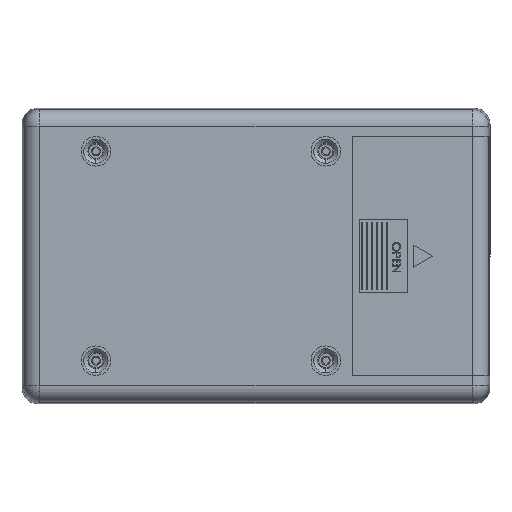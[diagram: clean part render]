
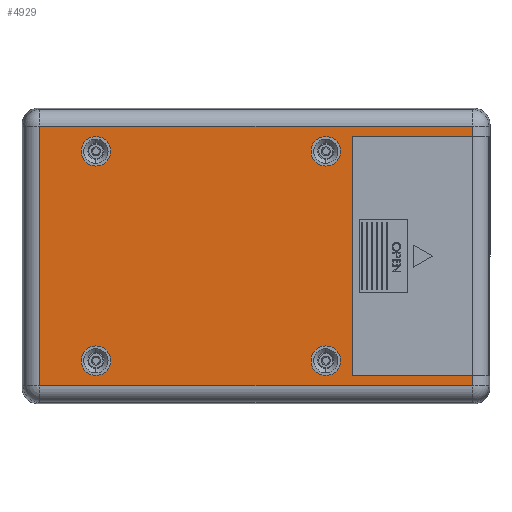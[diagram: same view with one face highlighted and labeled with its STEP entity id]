
A CAD part, front view. The second image highlights one B-rep face of the part: STEP entity #4929.
In plain terms, the highlighted planar face has unit normal (0, -1, 0).
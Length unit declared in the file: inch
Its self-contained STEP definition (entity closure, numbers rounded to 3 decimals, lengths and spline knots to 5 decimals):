
#378 = CIRCLE ( 'NONE', #8807, 0.14173 ) ;
#408 = LINE ( 'NONE', #9520, #24000 ) ;
#414 = EDGE_CURVE ( 'NONE', #7673, #7652, #408, .T. ) ;
#495 = CIRCLE ( 'NONE', #4356, 0.14173 ) ;
#554 = CARTESIAN_POINT ( 'NONE',  ( -1.53543, -0.66142, 1.00394 ) ) ;
#888 = ORIENTED_EDGE ( 'NONE', *, *, #3149, .F. ) ;
#950 = CARTESIAN_POINT ( 'NONE',  ( -1.53543, -0.66142, -1.00394 ) ) ;
#1122 = ORIENTED_EDGE ( 'NONE', *, *, #7910, .F. ) ;
#1480 = CARTESIAN_POINT ( 'NONE',  ( 2.07336, -0.66142, -1.14764 ) ) ;
#1517 = CARTESIAN_POINT ( 'NONE',  ( 0.66929, -0.66142, -1.14567 ) ) ;
#1717 = VERTEX_POINT ( 'NONE', #17631 ) ;
#1873 = VECTOR ( 'NONE', #13309, 39.37008 ) ;
#1882 = CARTESIAN_POINT ( 'NONE',  ( 2.07336, -0.66142, 1.4 ) ) ;
#1959 = DIRECTION ( 'NONE',  ( 0., 0., 1. ) ) ;
#2112 = DIRECTION ( 'NONE',  ( 0., -1., 0. ) ) ;
#2486 = DIRECTION ( 'NONE',  ( 0., 0., -1. ) ) ;
#2520 = CARTESIAN_POINT ( 'NONE',  ( -2.22677, -0.66142, 1.24659 ) ) ;
#2624 = ORIENTED_EDGE ( 'NONE', *, *, #23263, .T. ) ;
#2738 = CARTESIAN_POINT ( 'NONE',  ( -1.53543, -0.66142, 1.14567 ) ) ;
#2878 = DIRECTION ( 'NONE',  ( 0., 0., -1. ) ) ;
#3149 = EDGE_CURVE ( 'NONE', #5513, #23173, #24731, .T. ) ;
#3456 = ORIENTED_EDGE ( 'NONE', *, *, #13502, .T. ) ;
#3607 = EDGE_LOOP ( 'NONE', ( #1122, #5102 ) ) ;
#3843 = VECTOR ( 'NONE', #4088, 39.37008 ) ;
#3975 = LINE ( 'NONE', #5264, #22454 ) ;
#4035 = ORIENTED_EDGE ( 'NONE', *, *, #22352, .F. ) ;
#4053 = ORIENTED_EDGE ( 'NONE', *, *, #4452, .F. ) ;
#4088 = DIRECTION ( 'NONE',  ( 0., 0., -1. ) ) ;
#4098 = FACE_OUTER_BOUND ( 'NONE', #20796, .T. ) ;
#4139 = CARTESIAN_POINT ( 'NONE',  ( -1.53543, -0.66142, -1.14567 ) ) ;
#4351 = AXIS2_PLACEMENT_3D ( 'NONE', #21614, #10155, #23535 ) ;
#4356 = AXIS2_PLACEMENT_3D ( 'NONE', #20369, #8920, #22275 ) ;
#4452 = EDGE_CURVE ( 'NONE', #16727, #7652, #21700, .T. ) ;
#4469 = CARTESIAN_POINT ( 'NONE',  ( 0., -0.66142, 0. ) ) ;
#4510 = CARTESIAN_POINT ( 'NONE',  ( 2.07336, -0.66142, 1.24659 ) ) ;
#4929 = ADVANCED_FACE ( 'NONE', ( #19302, #9132, #19902, #24417, #4098 ), #17771, .F. ) ;
#5058 = CARTESIAN_POINT ( 'NONE',  ( -1.53543, -0.66142, -0.8622 ) ) ;
#5102 = ORIENTED_EDGE ( 'NONE', *, *, #19952, .F. ) ;
#5187 = EDGE_CURVE ( 'NONE', #17178, #10267, #495, .T. ) ;
#5264 = CARTESIAN_POINT ( 'NONE',  ( 2.22677, -0.66142, -1.24659 ) ) ;
#5298 = ORIENTED_EDGE ( 'NONE', *, *, #20056, .F. ) ;
#5456 = EDGE_CURVE ( 'NONE', #22919, #1717, #9108, .T. ) ;
#5513 = VERTEX_POINT ( 'NONE', #14106 ) ;
#5516 = DIRECTION ( 'NONE',  ( -1., 0., 0. ) ) ;
#5580 = CIRCLE ( 'NONE', #12428, 0.14173 ) ;
#5598 = DIRECTION ( 'NONE',  ( 1., 0., 0. ) ) ;
#5971 = AXIS2_PLACEMENT_3D ( 'NONE', #6021, #19364, #7918 ) ;
#6021 = CARTESIAN_POINT ( 'NONE',  ( 0.66929, -0.66142, -1.00394 ) ) ;
#6346 = DIRECTION ( 'NONE',  ( 0., 1., 0. ) ) ;
#6434 = VERTEX_POINT ( 'NONE', #2738 ) ;
#6895 = VERTEX_POINT ( 'NONE', #4139 ) ;
#7046 = VECTOR ( 'NONE', #5598, 39.37008 ) ;
#7652 = VERTEX_POINT ( 'NONE', #1480 ) ;
#7673 = VERTEX_POINT ( 'NONE', #18741 ) ;
#7910 = EDGE_CURVE ( 'NONE', #16118, #6434, #20343, .T. ) ;
#7918 = DIRECTION ( 'NONE',  ( 0., 0., -1. ) ) ;
#8210 = CARTESIAN_POINT ( 'NONE',  ( 0.66929, -0.66142, 1.14567 ) ) ;
#8506 = VECTOR ( 'NONE', #12005, 39.37008 ) ;
#8778 = DIRECTION ( 'NONE',  ( 0., -1., 0. ) ) ;
#8807 = AXIS2_PLACEMENT_3D ( 'NONE', #20225, #8778, #22135 ) ;
#8863 = ORIENTED_EDGE ( 'NONE', *, *, #5187, .F. ) ;
#8920 = DIRECTION ( 'NONE',  ( 0., -1., 0. ) ) ;
#9108 = LINE ( 'NONE', #2520, #8506 ) ;
#9132 = FACE_BOUND ( 'NONE', #3607, .T. ) ;
#9138 = CARTESIAN_POINT ( 'NONE',  ( -1.53543, -0.66142, 0.8622 ) ) ;
#9179 = DIRECTION ( 'NONE',  ( 0., 0., -1. ) ) ;
#9379 = AXIS2_PLACEMENT_3D ( 'NONE', #13535, #2112, #15439 ) ;
#9447 = EDGE_CURVE ( 'NONE', #1717, #10590, #22944, .T. ) ;
#9455 = VERTEX_POINT ( 'NONE', #17393 ) ;
#9520 = CARTESIAN_POINT ( 'NONE',  ( 2.07336, -0.66142, 1.4 ) ) ;
#10155 = DIRECTION ( 'NONE',  ( 0., -1., 0. ) ) ;
#10267 = VERTEX_POINT ( 'NONE', #8210 ) ;
#10311 = CIRCLE ( 'NONE', #9379, 0.14173 ) ;
#10482 = CARTESIAN_POINT ( 'NONE',  ( 0.66929, -0.66142, 0.8622 ) ) ;
#10590 = VERTEX_POINT ( 'NONE', #11863 ) ;
#10832 = CARTESIAN_POINT ( 'NONE',  ( -1.53543, -0.66142, 1.00394 ) ) ;
#10977 = DIRECTION ( 'NONE',  ( 1., 0., 0. ) ) ;
#11863 = CARTESIAN_POINT ( 'NONE',  ( -2.07336, -0.66142, -1.24659 ) ) ;
#12005 = DIRECTION ( 'NONE',  ( -1., 0., 0. ) ) ;
#12084 = ORIENTED_EDGE ( 'NONE', *, *, #414, .T. ) ;
#12428 = AXIS2_PLACEMENT_3D ( 'NONE', #10832, #24248, #12773 ) ;
#12624 = ORIENTED_EDGE ( 'NONE', *, *, #19848, .F. ) ;
#12773 = DIRECTION ( 'NONE',  ( 0., 0., -1. ) ) ;
#13064 = CARTESIAN_POINT ( 'NONE',  ( 0.9252, -0.66142, 1.14764 ) ) ;
#13158 = VERTEX_POINT ( 'NONE', #5058 ) ;
#13309 = DIRECTION ( 'NONE',  ( 0., 0., 1. ) ) ;
#13330 = LINE ( 'NONE', #22533, #22877 ) ;
#13369 = VECTOR ( 'NONE', #5516, 39.37008 ) ;
#13502 = EDGE_CURVE ( 'NONE', #10590, #7673, #3975, .T. ) ;
#13535 = CARTESIAN_POINT ( 'NONE',  ( 0.66929, -0.66142, 1.00394 ) ) ;
#13791 = AXIS2_PLACEMENT_3D ( 'NONE', #4469, #6346, #19710 ) ;
#13917 = DIRECTION ( 'NONE',  ( 0., -1., 0. ) ) ;
#14106 = CARTESIAN_POINT ( 'NONE',  ( 2.07336, -0.66142, 1.14764 ) ) ;
#14138 = EDGE_LOOP ( 'NONE', ( #18356, #19638 ) ) ;
#14306 = DIRECTION ( 'NONE',  ( 0., -1., 0. ) ) ;
#14446 = EDGE_LOOP ( 'NONE', ( #8863, #17343 ) ) ;
#15018 = CARTESIAN_POINT ( 'NONE',  ( 0.9252, -0.66142, 1.14764 ) ) ;
#15439 = DIRECTION ( 'NONE',  ( 0., 0., -1. ) ) ;
#15499 = CARTESIAN_POINT ( 'NONE',  ( -2.07336, -0.66142, -1.4 ) ) ;
#15542 = EDGE_LOOP ( 'NONE', ( #4035, #12624 ) ) ;
#15785 = EDGE_CURVE ( 'NONE', #18462, #9455, #21769, .T. ) ;
#16118 = VERTEX_POINT ( 'NONE', #9138 ) ;
#16727 = VERTEX_POINT ( 'NONE', #24510 ) ;
#17011 = CARTESIAN_POINT ( 'NONE',  ( 0.9252, -0.66142, -1.14764 ) ) ;
#17178 = VERTEX_POINT ( 'NONE', #10482 ) ;
#17343 = ORIENTED_EDGE ( 'NONE', *, *, #20217, .F. ) ;
#17393 = CARTESIAN_POINT ( 'NONE',  ( 0.66929, -0.66142, -0.8622 ) ) ;
#17503 = CIRCLE ( 'NONE', #23165, 0.14173 ) ;
#17631 = CARTESIAN_POINT ( 'NONE',  ( -2.07336, -0.66142, 1.24659 ) ) ;
#17771 = PLANE ( 'NONE',  #13791 ) ;
#18356 = ORIENTED_EDGE ( 'NONE', *, *, #15785, .F. ) ;
#18462 = VERTEX_POINT ( 'NONE', #1517 ) ;
#18741 = CARTESIAN_POINT ( 'NONE',  ( 2.07336, -0.66142, -1.24659 ) ) ;
#19222 = CIRCLE ( 'NONE', #4351, 0.14173 ) ;
#19241 = AXIS2_PLACEMENT_3D ( 'NONE', #554, #13917, #2486 ) ;
#19302 = FACE_BOUND ( 'NONE', #14446, .T. ) ;
#19364 = DIRECTION ( 'NONE',  ( 0., -1., 0. ) ) ;
#19638 = ORIENTED_EDGE ( 'NONE', *, *, #23541, .F. ) ;
#19710 = DIRECTION ( 'NONE',  ( 0., 0., 1. ) ) ;
#19848 = EDGE_CURVE ( 'NONE', #13158, #6895, #17503, .T. ) ;
#19902 = FACE_BOUND ( 'NONE', #14138, .T. ) ;
#19952 = EDGE_CURVE ( 'NONE', #6434, #16118, #5580, .T. ) ;
#20056 = EDGE_CURVE ( 'NONE', #23173, #16727, #13330, .T. ) ;
#20217 = EDGE_CURVE ( 'NONE', #10267, #17178, #10311, .T. ) ;
#20225 = CARTESIAN_POINT ( 'NONE',  ( 0.66929, -0.66142, -1.00394 ) ) ;
#20343 = CIRCLE ( 'NONE', #19241, 0.14173 ) ;
#20369 = CARTESIAN_POINT ( 'NONE',  ( 0.66929, -0.66142, 1.00394 ) ) ;
#20796 = EDGE_LOOP ( 'NONE', ( #24568, #21869, #3456, #12084, #4053, #5298, #888, #2624 ) ) ;
#20985 = LINE ( 'NONE', #1882, #1873 ) ;
#21614 = CARTESIAN_POINT ( 'NONE',  ( -1.53543, -0.66142, -1.00394 ) ) ;
#21700 = LINE ( 'NONE', #17011, #7046 ) ;
#21769 = CIRCLE ( 'NONE', #5971, 0.14173 ) ;
#21869 = ORIENTED_EDGE ( 'NONE', *, *, #9447, .T. ) ;
#22135 = DIRECTION ( 'NONE',  ( 0., 0., -1. ) ) ;
#22275 = DIRECTION ( 'NONE',  ( 0., 0., -1. ) ) ;
#22352 = EDGE_CURVE ( 'NONE', #6895, #13158, #19222, .T. ) ;
#22454 = VECTOR ( 'NONE', #10977, 39.37008 ) ;
#22533 = CARTESIAN_POINT ( 'NONE',  ( 0.9252, -0.66142, 1.14764 ) ) ;
#22877 = VECTOR ( 'NONE', #9179, 39.37008 ) ;
#22919 = VERTEX_POINT ( 'NONE', #4510 ) ;
#22944 = LINE ( 'NONE', #15499, #3843 ) ;
#23165 = AXIS2_PLACEMENT_3D ( 'NONE', #950, #14306, #2878 ) ;
#23173 = VERTEX_POINT ( 'NONE', #13064 ) ;
#23263 = EDGE_CURVE ( 'NONE', #5513, #22919, #20985, .T. ) ;
#23535 = DIRECTION ( 'NONE',  ( 0., 0., -1. ) ) ;
#23541 = EDGE_CURVE ( 'NONE', #9455, #18462, #378, .T. ) ;
#24000 = VECTOR ( 'NONE', #1959, 39.37008 ) ;
#24248 = DIRECTION ( 'NONE',  ( 0., -1., 0. ) ) ;
#24417 = FACE_BOUND ( 'NONE', #15542, .T. ) ;
#24510 = CARTESIAN_POINT ( 'NONE',  ( 0.9252, -0.66142, -1.14764 ) ) ;
#24568 = ORIENTED_EDGE ( 'NONE', *, *, #5456, .T. ) ;
#24731 = LINE ( 'NONE', #15018, #13369 ) ;
